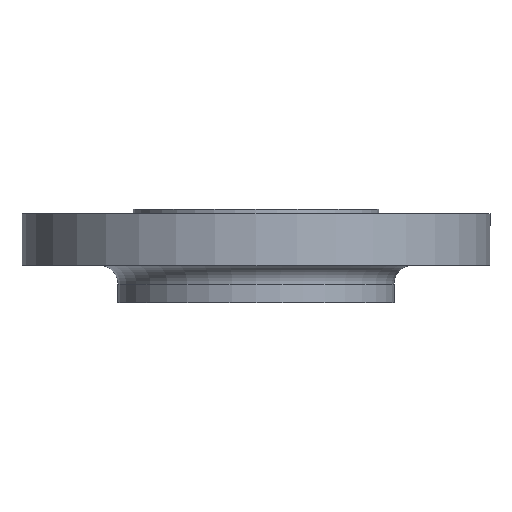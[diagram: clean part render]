
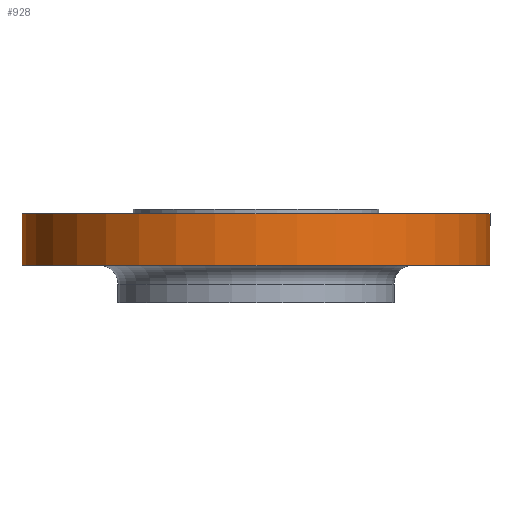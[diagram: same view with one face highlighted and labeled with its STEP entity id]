
A CAD part, front view. The second image highlights one B-rep face of the part: STEP entity #928.
In plain terms, the highlighted cylindrical face has radius 100 mm (diameter 200 mm), a partial arc.
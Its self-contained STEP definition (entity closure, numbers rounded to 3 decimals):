
#18 = CIRCLE ( 'NONE', #387, 100. ) ;
#151 = DIRECTION ( 'NONE',  ( 1., 0., 0. ) ) ;
#155 = CARTESIAN_POINT ( 'NONE',  ( 0., 0., -24. ) ) ;
#156 = DIRECTION ( 'NONE',  ( 0., 0., 1. ) ) ;
#162 = DIRECTION ( 'NONE',  ( 1., 0., 0. ) ) ;
#163 = DIRECTION ( 'NONE',  ( 0., 0., 1. ) ) ;
#164 = CARTESIAN_POINT ( 'NONE',  ( 0., 0., -68. ) ) ;
#170 = CYLINDRICAL_SURFACE ( 'NONE', #633, 100. ) ;
#176 = CARTESIAN_POINT ( 'NONE',  ( -100., 0., -24. ) ) ;
#178 = FACE_OUTER_BOUND ( 'NONE', #986, .T. ) ;
#191 = CARTESIAN_POINT ( 'NONE',  ( -100., 0., -2. ) ) ;
#217 = VECTOR ( 'NONE', #307, 1000. ) ;
#227 = CIRCLE ( 'NONE', #443, 100. ) ;
#231 = CARTESIAN_POINT ( 'NONE',  ( 100., 0., -2. ) ) ;
#307 = DIRECTION ( 'NONE',  ( 0., 0., 1. ) ) ;
#308 = CARTESIAN_POINT ( 'NONE',  ( 100., 0., -68. ) ) ;
#309 = LINE ( 'NONE', #308, #217 ) ;
#366 = DIRECTION ( 'NONE',  ( 0., 0., 1. ) ) ;
#367 = CARTESIAN_POINT ( 'NONE',  ( -100., 0., -68. ) ) ;
#369 = LINE ( 'NONE', #367, #384 ) ;
#379 = CARTESIAN_POINT ( 'NONE',  ( 100., 0., -24. ) ) ;
#384 = VECTOR ( 'NONE', #366, 1000. ) ;
#387 = AXIS2_PLACEMENT_3D ( 'NONE', #401, #398, #397 ) ;
#397 = DIRECTION ( 'NONE',  ( -1., 0., 0. ) ) ;
#398 = DIRECTION ( 'NONE',  ( 0., 0., -1. ) ) ;
#401 = CARTESIAN_POINT ( 'NONE',  ( 0., 0., -2. ) ) ;
#443 = AXIS2_PLACEMENT_3D ( 'NONE', #155, #156, #151 ) ;
#633 = AXIS2_PLACEMENT_3D ( 'NONE', #164, #163, #162 ) ;
#641 = EDGE_CURVE ( 'NONE', #886, #915, #18, .T. ) ;
#661 = VERTEX_POINT ( 'NONE', #379 ) ;
#669 = EDGE_CURVE ( 'NONE', #923, #915, #369, .T. ) ;
#784 = EDGE_CURVE ( 'NONE', #661, #886, #309, .T. ) ;
#886 = VERTEX_POINT ( 'NONE', #231 ) ;
#915 = VERTEX_POINT ( 'NONE', #191 ) ;
#923 = VERTEX_POINT ( 'NONE', #176 ) ;
#928 = ADVANCED_FACE ( 'NONE', ( #178 ), #170, .T. ) ;
#936 = EDGE_CURVE ( 'NONE', #923, #661, #227, .T. ) ;
#986 = EDGE_LOOP ( 'NONE', ( #1048, #1049, #1050, #1051 ) ) ;
#1048 = ORIENTED_EDGE ( 'NONE', *, *, #669, .F. ) ;
#1049 = ORIENTED_EDGE ( 'NONE', *, *, #936, .T. ) ;
#1050 = ORIENTED_EDGE ( 'NONE', *, *, #784, .T. ) ;
#1051 = ORIENTED_EDGE ( 'NONE', *, *, #641, .T. ) ;
